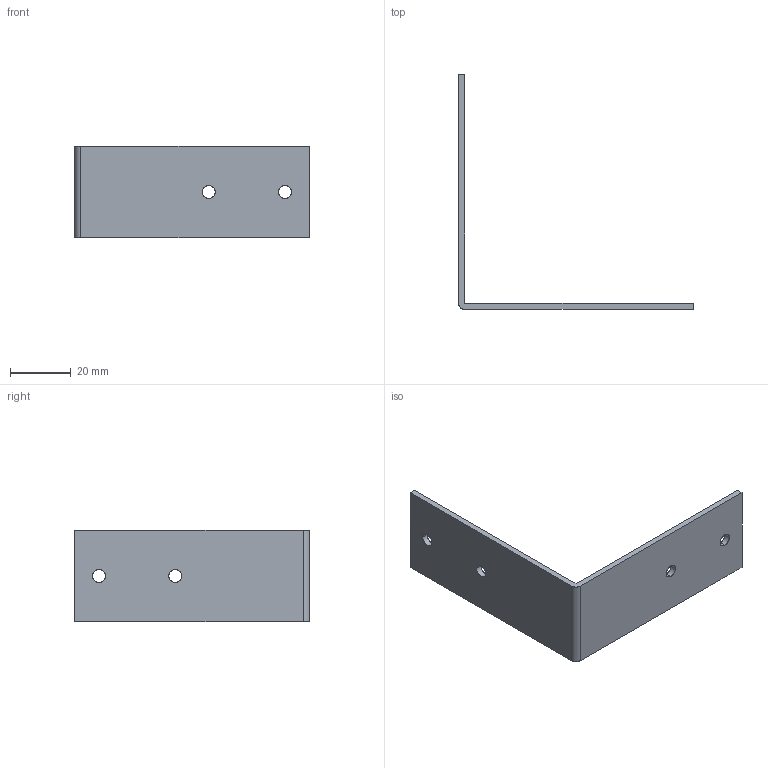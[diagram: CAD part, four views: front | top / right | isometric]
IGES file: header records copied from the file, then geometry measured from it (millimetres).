
Start section: SolidWorks IGES file using analytic representation for surfaces
Global section: file name: C:\Users\cbrechard\Desktop\RE 602.IGS; native system: SolidWorks 2017; preprocessor: SolidWorks 2017; author: cbrechard; date: 190927.095005; units: millimetre
Bounding box: 77 x 77 x 30 mm (x, y, z)
Surface area: 9815.3 mm2 (no closed solid volume)
Topology: 0 solids, 0 shells, 17 faces, 344 edges, 344 vertices
Faces by surface type: revolution 9, bspline 8
